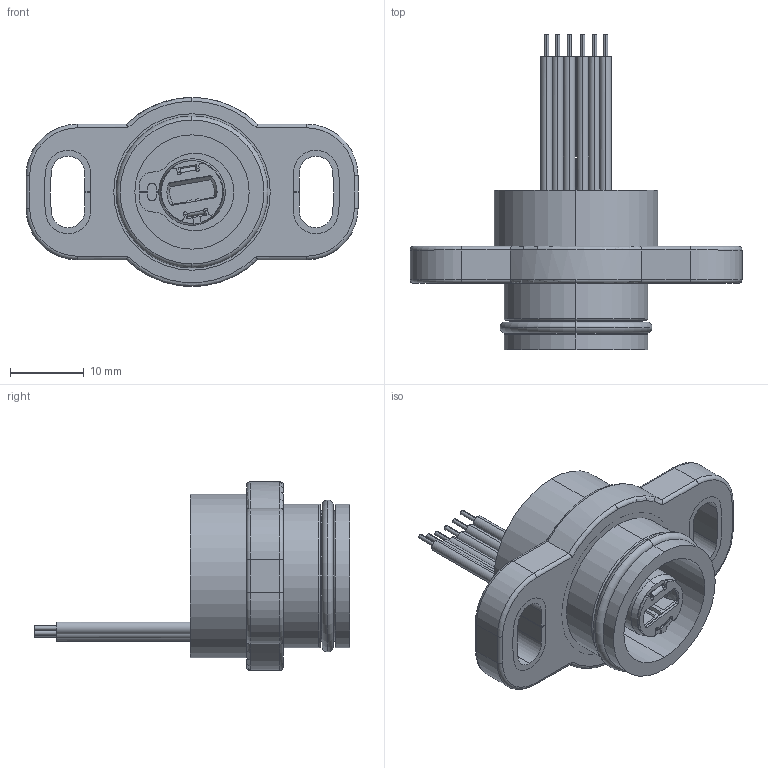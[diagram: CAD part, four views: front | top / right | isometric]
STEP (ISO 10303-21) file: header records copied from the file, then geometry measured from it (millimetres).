
FILE_DESCRIPTION (( 'STEP AP203' ), '1' );
FILE_NAME ('雙耳不帶軸.STEP', '2019-07-30T08:25:38', ( '' ), ( '' ), 'SwSTEP 2.0', 'SolidWorks 2019', '' );
FILE_SCHEMA (( 'CONFIG_CONTROL_DESIGN' ));
Length unit declared in the file: millimetre
Products named in the file (21): Hall Effect Position Sensor IC_MLX90316_OR_HAL3625_Micronas_Supplier_3625; Cring_STWN8_dd; 285_EARS_insert; 285S0011cable_SU3; 雙耳不帶軸; 285EARS_rotor_EARS_KYMCO; LowCost_Seal_500_41_001_UsedOn LowCost_DD_7.8; 鏡射285S0011cable_SU3; Rotor_Protector_For500S_DirectDrive; 285EARS_Oring17.5x1.5; solder; 22D_HS_ShaftMagnetStoper Subassembling_dd_Kymco_rotor; 22D_HS_BushingHousing Subassembling_dd_285S0015 Kymco; 285_PCB_SubAssembly_dd_285S0011_SU3; 285PCB_ferro_v3_dual; Magnet_Size_D6x2.2; glue_0011_Kymco filling; 285_Housing_EARS_Kymco; Capacitor; ferroshield_0011c_v2; ferroshield_0011bs2_285-57-010
Assembly tree (28 placements, depth 3):
  雙耳不帶軸
    22D_HS_BushingHousing Subassembling_dd_285S0015 Kymco
      285_Housing_EARS_Kymco
      ferroshield_0011bs2_285-57-010
      285_EARS_insert  x2
      LowCost_Seal_500_41_001_UsedOn LowCost_DD_7.8
      285EARS_Oring17.5x1.5
    22D_HS_ShaftMagnetStoper Subassembling_dd_Kymco_rotor
      Magnet_Size_D6x2.2
      285EARS_rotor_EARS_KYMCO
      Rotor_Protector_For500S_DirectDrive
    285_PCB_SubAssembly_dd_285S0011_SU3
      285PCB_ferro_v3_dual
      Capacitor  x4
      Hall Effect Position Sensor IC_MLX90316_OR_HAL3625_Micronas_Supplier_3625
      285S0011cable_SU3
      鏡射285S0011cable_SU3
      solder  x5
    glue_0011_Kymco filling
    ferroshield_0011c_v2
    Cring_STWN8_dd
Bounding box: 45 x 42.78 x 25.6 mm (x, y, z)
Volume: 11372.2 mm3; surface area: 12910 mm2
Topology: 26 solids, 26 shells, 1241 faces, 3242 edges, 2126 vertices
Faces by surface type: plane 686, cylinder 456, torus 56, cone 27, bspline 16
Entity records: 38145 total; most frequent: CARTESIAN_POINT 7609, DIRECTION 5926, ORIENTED_EDGE 5856, EDGE_CURVE 2928, AXIS2_PLACEMENT_3D 2035, VERTEX_POINT 1922, VECTOR 1856, LINE 1856
